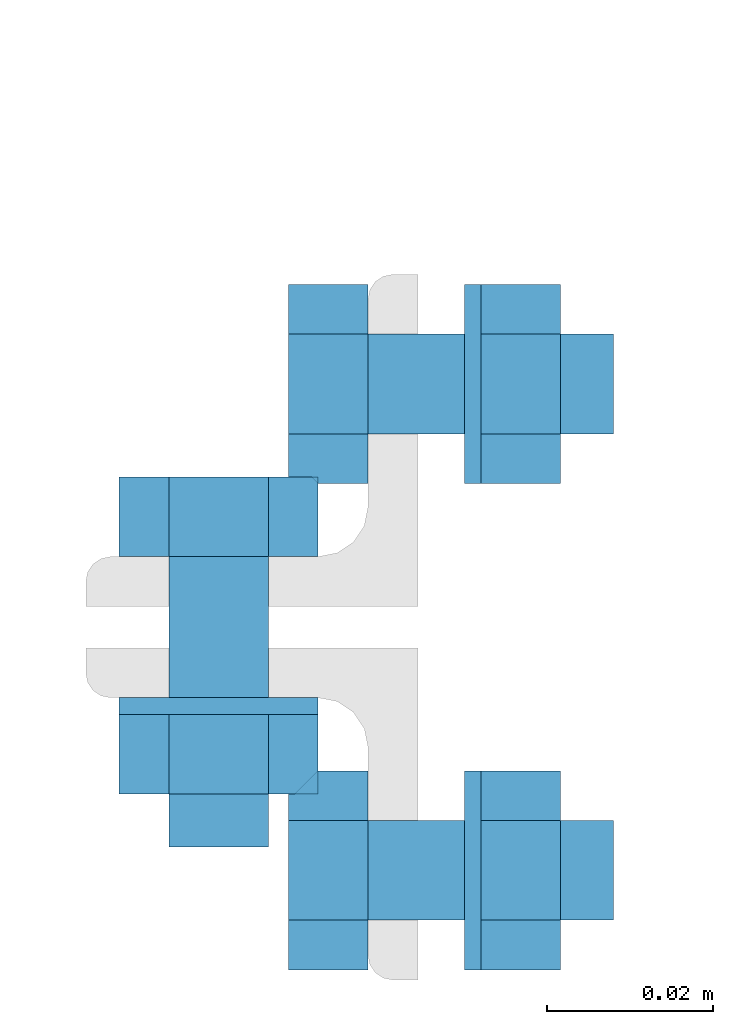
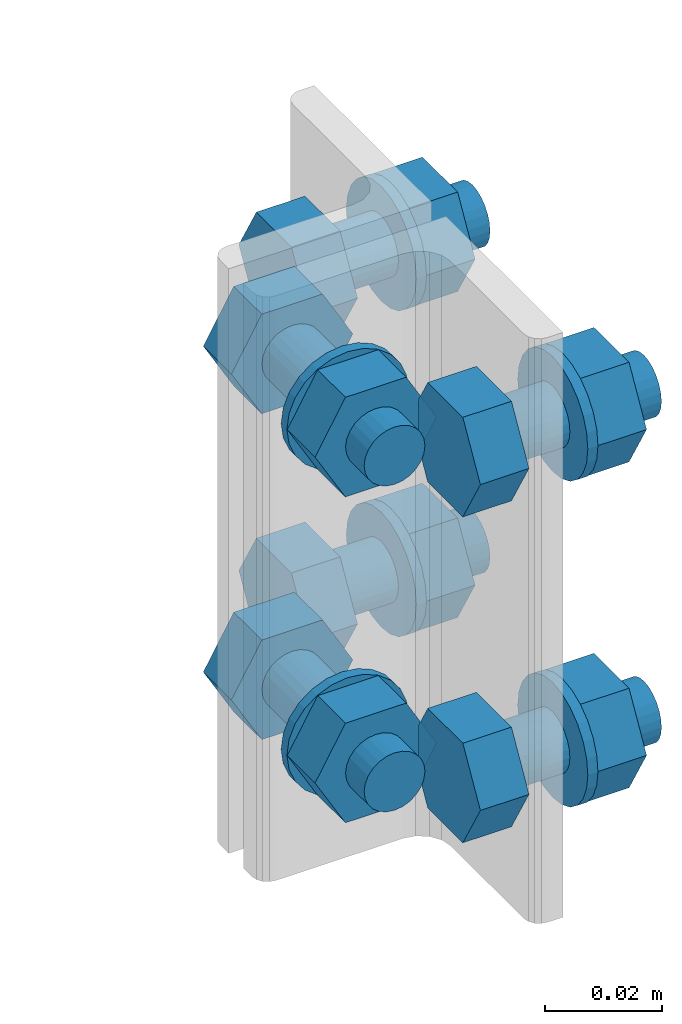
# One storey, part 18 of 20: 32 mechanical fasteners.
"""IFC4 building model written with IfcOpenShell, lengths in metres."""

from ifc_helpers import new_model, si_unit, frame, origin_with_axes, place, context, project, spatial, polyline, outline, extrude, type_object, element, save


model = new_model("IFC4")

# Units and contexts
model_context = context("Model", 3, precision=1e-05, world=origin_with_axes())
ifc_project = project(units=[si_unit("LENGTHUNIT", "METRE"), si_unit("AREAUNIT", "SQUARE_METRE"), si_unit("VOLUMEUNIT", "CUBIC_METRE"), si_unit("MASSUNIT", "GRAM", prefix="KILO"), si_unit("TIMEUNIT", "SECOND"), si_unit("PLANEANGLEUNIT", "RADIAN"), si_unit("SOLIDANGLEUNIT", "STERADIAN"), si_unit("THERMODYNAMICTEMPERATUREUNIT", "DEGREE_CELSIUS")], contexts=[model_context])

# Site, building, storey
placement_1 = place(None, origin_with_axes())
site = spatial("IfcSite", under=ifc_project, at=placement_1, Name="Italia", CompositionType="ELEMENT")
building = spatial("IfcBuilding", under=site, at=placement_1, Name="Tettoia", CompositionType="ELEMENT")
storey = spatial("IfcBuildingStorey", under=building, at=placement_1, Name="Storey 0", CompositionType="ELEMENT", Elevation=0.0)

# Mechanical fasteners
mechanical_fastener_type_1 = type_object("IfcMechanicalFastenerType", Name="Collegamento 0117_0116", PredefinedType="BOLT")
placement_2 = place(placement_1, origin_with_axes())
mechanical_fastener_1_placement = place(placement_2, origin_with_axes())
element("IfcMechanicalFastener", 1, at=mechanical_fastener_1_placement, inside=storey, type_object=mechanical_fastener_type_1, Name="Collegamento 0117_0116", NominalDiameter=0.0119997, context=model_context, shape_type="SweptSolid", body=[
    extrude(outline(polyline([(0.0, 0.0), (-0.0120001, 0.0), (-0.0179996, 0.0103922), (-0.0120001, 0.0207844), (0.0, 0.0207844), (0.00600052, 0.0103922), (0.0, 0.0)])), frame((11.2572, 0.2085, 4.25561), z_axis=(0.0, 1.0, 0.0), x_axis=(-1.0, 0.0, 0.0)), (0.0, 0.0, 1.0), 0.00960001),
])
mechanical_fastener_type_2 = type_object("IfcMechanicalFastenerType", Name="Collegamento 0117_0116", PredefinedType="BOLT")
mechanical_fastener_2_placement = place(placement_2, origin_with_axes())
element("IfcMechanicalFastener", 2, at=mechanical_fastener_2_placement, inside=storey, type_object=mechanical_fastener_type_2, Name="Collegamento 0117_0116", NominalDiameter=0.012, context=model_context, shape_type="SweptSolid", body=[
    extrude(outline(polyline([(0.0, 0.0), (-0.000204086, -0.00155306), (-0.000802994, -0.00299978), (-0.00175667, -0.00424242), (-0.00299931, -0.00519609), (-0.00444698, -0.00579548), (-0.00599957, -0.00600004), (-0.00755215, -0.00579548), (-0.00899982, -0.00519609), (-0.0102425, -0.00424242), (-0.0111961, -0.00299978), (-0.011795, -0.00155306), (-0.0119991, 0.0), (-0.011795, 0.00155306), (-0.0111961, 0.00299978), (-0.0102425, 0.00424242), (-0.00899982, 0.00519609), (-0.00755215, 0.00579548), (-0.00599957, 0.00600004), (-0.00444698, 0.00579548), (-0.00299931, 0.00519609), (-0.00175667, 0.00424242), (-0.000802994, 0.00299978), (-0.000204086, 0.00155306), (0.0, 0.0)])), frame((11.2572, 0.1735, 4.266), z_axis=(0.0, 1.0, 0.0), x_axis=(-1.0, 0.0, 0.0)), (0.0, 0.0, 1.0), 0.035),
])
mechanical_fastener_type_3 = type_object("IfcMechanicalFastenerType", Name="Collegamento 0117_0116", PredefinedType="BOLT")
mechanical_fastener_3_placement = place(placement_2, origin_with_axes())
element("IfcMechanicalFastener", 3, at=mechanical_fastener_3_placement, inside=storey, type_object=mechanical_fastener_type_3, Name="Collegamento 0117_0116", NominalDiameter=0.0119997, context=model_context, shape_type="SweptSolid", body=[
    extrude(outline(polyline([(0.0, 0.0), (-0.0120001, 0.0), (-0.0179996, 0.0103922), (-0.0120001, 0.0207844), (0.0, 0.0207844), (0.00600052, 0.0103922), (0.0, 0.0)])), frame((11.2572, 0.1799, 4.25561), z_axis=(0.0, 1.0, 0.0), x_axis=(-1.0, 0.0, 0.0)), (0.0, 0.0, 1.0), 0.0096),
])
mechanical_fastener_type_4 = type_object("IfcMechanicalFastenerType", Name="Collegamento 0117_0116", PredefinedType="BOLT")
mechanical_fastener_4_placement = place(placement_2, origin_with_axes())
element("IfcMechanicalFastener", 4, at=mechanical_fastener_4_placement, inside=storey, type_object=mechanical_fastener_type_4, Name="Collegamento 0117_0116", NominalDiameter=0.024, context=model_context, shape_type="SweptSolid", body=[
    extrude(outline(polyline([(0.0, 0.0), (-0.000409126, -0.00310564), (-0.00160789, -0.00600004), (-0.00351524, -0.00848532), (-0.00600052, -0.0103922), (-0.00889397, -0.011591), (-0.0120001, -0.0120001), (-0.0151062, -0.011591), (-0.0179996, -0.0103922), (-0.0204849, -0.00848532), (-0.0223923, -0.00600004), (-0.023591, -0.00310564), (-0.0240002, 0.0), (-0.023591, 0.00310564), (-0.0223923, 0.00600004), (-0.0204849, 0.00848532), (-0.0179996, 0.0103922), (-0.0151062, 0.011591), (-0.0120001, 0.0120001), (-0.00889397, 0.011591), (-0.00600052, 0.0103922), (-0.00351524, 0.00848532), (-0.00160789, 0.00600004), (-0.000409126, 0.00310564), (0.0, 0.0)])), frame((11.2512, 0.1895, 4.266), z_axis=(0.0, 1.0, 0.0), x_axis=(-1.0, 0.0, 0.0)), (0.0, 0.0, 1.0), 0.002),
])
mechanical_fastener_type_5 = type_object("IfcMechanicalFastenerType", Name="Collegamento 0117_0116", PredefinedType="BOLT")
mechanical_fastener_5_placement = place(placement_2, origin_with_axes())
element("IfcMechanicalFastener", 5, at=mechanical_fastener_5_placement, inside=storey, type_object=mechanical_fastener_type_5, Name="Collegamento 0117_0116", NominalDiameter=0.0119997, context=model_context, shape_type="SweptSolid", body=[
    extrude(outline(polyline([(0.0, 0.0), (-0.0120001, 0.0), (-0.0179996, 0.0103922), (-0.0120001, 0.0207844), (0.0, 0.0207844), (0.00600052, 0.0103922), (0.0, 0.0)])), frame((11.2572, 0.2085, 4.32361), z_axis=(0.0, 1.0, 0.0), x_axis=(-1.0, 0.0, 0.0)), (0.0, 0.0, 1.0), 0.00960001),
])
mechanical_fastener_type_6 = type_object("IfcMechanicalFastenerType", Name="Collegamento 0117_0116", PredefinedType="BOLT")
mechanical_fastener_6_placement = place(placement_2, origin_with_axes())
element("IfcMechanicalFastener", 6, at=mechanical_fastener_6_placement, inside=storey, type_object=mechanical_fastener_type_6, Name="Collegamento 0117_0116", NominalDiameter=0.012, context=model_context, shape_type="SweptSolid", body=[
    extrude(outline(polyline([(0.0, 0.0), (-0.000204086, -0.00155306), (-0.000802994, -0.00299978), (-0.00175667, -0.00424242), (-0.00299931, -0.00519609), (-0.00444698, -0.00579548), (-0.00599957, -0.00600004), (-0.00755215, -0.00579548), (-0.00899982, -0.00519609), (-0.0102425, -0.00424242), (-0.0111961, -0.00299978), (-0.011795, -0.00155306), (-0.0119991, 0.0), (-0.011795, 0.00155306), (-0.0111961, 0.00299978), (-0.0102425, 0.00424242), (-0.00899982, 0.00519609), (-0.00755215, 0.00579548), (-0.00599957, 0.00600004), (-0.00444698, 0.00579548), (-0.00299931, 0.00519609), (-0.00175667, 0.00424242), (-0.000802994, 0.00299978), (-0.000204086, 0.00155306), (0.0, 0.0)])), frame((11.2572, 0.1735, 4.334), z_axis=(0.0, 1.0, 0.0), x_axis=(-1.0, 0.0, 0.0)), (0.0, 0.0, 1.0), 0.035),
])
mechanical_fastener_type_7 = type_object("IfcMechanicalFastenerType", Name="Collegamento 0117_0116", PredefinedType="BOLT")
mechanical_fastener_7_placement = place(placement_2, origin_with_axes())
element("IfcMechanicalFastener", 7, at=mechanical_fastener_7_placement, inside=storey, type_object=mechanical_fastener_type_7, Name="Collegamento 0117_0116", NominalDiameter=0.0119997, context=model_context, shape_type="SweptSolid", body=[
    extrude(outline(polyline([(0.0, 0.0), (-0.0120001, 0.0), (-0.0179996, 0.0103922), (-0.0120001, 0.0207844), (0.0, 0.0207844), (0.00600052, 0.0103922), (0.0, 0.0)])), frame((11.2572, 0.1799, 4.32361), z_axis=(0.0, 1.0, 0.0), x_axis=(-1.0, 0.0, 0.0)), (0.0, 0.0, 1.0), 0.0096),
])
mechanical_fastener_type_8 = type_object("IfcMechanicalFastenerType", Name="Collegamento 0117_0116", PredefinedType="BOLT")
mechanical_fastener_8_placement = place(placement_2, origin_with_axes())
element("IfcMechanicalFastener", 8, at=mechanical_fastener_8_placement, inside=storey, type_object=mechanical_fastener_type_8, Name="Collegamento 0117_0116", NominalDiameter=0.024, context=model_context, shape_type="SweptSolid", body=[
    extrude(outline(polyline([(0.0, 0.0), (-0.000409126, -0.00310564), (-0.00160789, -0.00600004), (-0.00351524, -0.00848532), (-0.00600052, -0.0103922), (-0.00889397, -0.011591), (-0.0120001, -0.0120001), (-0.0151062, -0.011591), (-0.0179996, -0.0103922), (-0.0204849, -0.00848532), (-0.0223923, -0.00600004), (-0.023591, -0.00310564), (-0.0240002, 0.0), (-0.023591, 0.00310564), (-0.0223923, 0.00600004), (-0.0204849, 0.00848532), (-0.0179996, 0.0103922), (-0.0151062, 0.011591), (-0.0120001, 0.0120001), (-0.00889397, 0.011591), (-0.00600052, 0.0103922), (-0.00351524, 0.00848532), (-0.00160789, 0.00600004), (-0.000409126, 0.00310564), (0.0, 0.0)])), frame((11.2512, 0.1895, 4.334), z_axis=(0.0, 1.0, 0.0), x_axis=(-1.0, 0.0, 0.0)), (0.0, 0.0, 1.0), 0.002),
])
mechanical_fastener_type_9 = type_object("IfcMechanicalFastenerType", Name="Collegamento 0117_0116", PredefinedType="BOLT")
mechanical_fastener_9_placement = place(placement_2, origin_with_axes())
element("IfcMechanicalFastener", 9, at=mechanical_fastener_9_placement, inside=storey, type_object=mechanical_fastener_type_9, Name="Collegamento 0117_0116", NominalDiameter=0.0119997, context=model_context, shape_type="SweptSolid", body=[
    extrude(outline(polyline([(0.0, 0.0), (-0.0120001, 0.0), (-0.0179996, 0.0103922), (-0.0120001, 0.0207844), (0.0, 0.0207844), (0.00600052, 0.0103922), (0.0, 0.0)])), frame((11.2572, 0.2085, 4.25561), z_axis=(0.0, 1.0, 0.0), x_axis=(-1.0, 0.0, 0.0)), (0.0, 0.0, 1.0), 0.00960001),
])
mechanical_fastener_type_10 = type_object("IfcMechanicalFastenerType", Name="Collegamento 0117_0116", PredefinedType="BOLT")
mechanical_fastener_10_placement = place(placement_2, origin_with_axes())
element("IfcMechanicalFastener", 10, at=mechanical_fastener_10_placement, inside=storey, type_object=mechanical_fastener_type_10, Name="Collegamento 0117_0116", NominalDiameter=0.012, context=model_context, shape_type="SweptSolid", body=[
    extrude(outline(polyline([(0.0, 0.0), (-0.000204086, -0.00155306), (-0.000802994, -0.00299978), (-0.00175667, -0.00424242), (-0.00299931, -0.00519609), (-0.00444698, -0.00579548), (-0.00599957, -0.00600004), (-0.00755215, -0.00579548), (-0.00899982, -0.00519609), (-0.0102425, -0.00424242), (-0.0111961, -0.00299978), (-0.011795, -0.00155306), (-0.0119991, 0.0), (-0.011795, 0.00155306), (-0.0111961, 0.00299978), (-0.0102425, 0.00424242), (-0.00899982, 0.00519609), (-0.00755215, 0.00579548), (-0.00599957, 0.00600004), (-0.00444698, 0.00579548), (-0.00299931, 0.00519609), (-0.00175667, 0.00424242), (-0.000802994, 0.00299978), (-0.000204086, 0.00155306), (0.0, 0.0)])), frame((11.2572, 0.1735, 4.266), z_axis=(0.0, 1.0, 0.0), x_axis=(-1.0, 0.0, 0.0)), (0.0, 0.0, 1.0), 0.035),
])
mechanical_fastener_type_11 = type_object("IfcMechanicalFastenerType", Name="Collegamento 0117_0116", PredefinedType="BOLT")
mechanical_fastener_11_placement = place(placement_2, origin_with_axes())
element("IfcMechanicalFastener", 11, at=mechanical_fastener_11_placement, inside=storey, type_object=mechanical_fastener_type_11, Name="Collegamento 0117_0116", NominalDiameter=0.0119997, context=model_context, shape_type="SweptSolid", body=[
    extrude(outline(polyline([(0.0, 0.0), (-0.0120001, 0.0), (-0.0179996, 0.0103922), (-0.0120001, 0.0207844), (0.0, 0.0207844), (0.00600052, 0.0103922), (0.0, 0.0)])), frame((11.2572, 0.1799, 4.25561), z_axis=(0.0, 1.0, 0.0), x_axis=(-1.0, 0.0, 0.0)), (0.0, 0.0, 1.0), 0.0096),
])
mechanical_fastener_type_12 = type_object("IfcMechanicalFastenerType", Name="Collegamento 0117_0116", PredefinedType="BOLT")
mechanical_fastener_12_placement = place(placement_2, origin_with_axes())
element("IfcMechanicalFastener", 12, at=mechanical_fastener_12_placement, inside=storey, type_object=mechanical_fastener_type_12, Name="Collegamento 0117_0116", NominalDiameter=0.024, context=model_context, shape_type="SweptSolid", body=[
    extrude(outline(polyline([(0.0, 0.0), (-0.000409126, -0.00310564), (-0.00160789, -0.00600004), (-0.00351524, -0.00848532), (-0.00600052, -0.0103922), (-0.00889397, -0.011591), (-0.0120001, -0.0120001), (-0.0151062, -0.011591), (-0.0179996, -0.0103922), (-0.0204849, -0.00848532), (-0.0223923, -0.00600004), (-0.023591, -0.00310564), (-0.0240002, 0.0), (-0.023591, 0.00310564), (-0.0223923, 0.00600004), (-0.0204849, 0.00848532), (-0.0179996, 0.0103922), (-0.0151062, 0.011591), (-0.0120001, 0.0120001), (-0.00889397, 0.011591), (-0.00600052, 0.0103922), (-0.00351524, 0.00848532), (-0.00160789, 0.00600004), (-0.000409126, 0.00310564), (0.0, 0.0)])), frame((11.2512, 0.1895, 4.266), z_axis=(0.0, 1.0, 0.0), x_axis=(-1.0, 0.0, 0.0)), (0.0, 0.0, 1.0), 0.002),
])
mechanical_fastener_type_13 = type_object("IfcMechanicalFastenerType", Name="Collegamento 0117_0116", PredefinedType="BOLT")
mechanical_fastener_13_placement = place(placement_2, origin_with_axes())
element("IfcMechanicalFastener", 13, at=mechanical_fastener_13_placement, inside=storey, type_object=mechanical_fastener_type_13, Name="Collegamento 0117_0116", NominalDiameter=0.0119997, context=model_context, shape_type="SweptSolid", body=[
    extrude(outline(polyline([(0.0, 0.0), (-0.0120001, 0.0), (-0.0179996, 0.0103922), (-0.0120001, 0.0207844), (0.0, 0.0207844), (0.00600052, 0.0103922), (0.0, 0.0)])), frame((11.2572, 0.2085, 4.32361), z_axis=(0.0, 1.0, 0.0), x_axis=(-1.0, 0.0, 0.0)), (0.0, 0.0, 1.0), 0.00960001),
])
mechanical_fastener_type_14 = type_object("IfcMechanicalFastenerType", Name="Collegamento 0117_0116", PredefinedType="BOLT")
mechanical_fastener_14_placement = place(placement_2, origin_with_axes())
element("IfcMechanicalFastener", 14, at=mechanical_fastener_14_placement, inside=storey, type_object=mechanical_fastener_type_14, Name="Collegamento 0117_0116", NominalDiameter=0.012, context=model_context, shape_type="SweptSolid", body=[
    extrude(outline(polyline([(0.0, 0.0), (-0.000204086, -0.00155306), (-0.000802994, -0.00299978), (-0.00175667, -0.00424242), (-0.00299931, -0.00519609), (-0.00444698, -0.00579548), (-0.00599957, -0.00600004), (-0.00755215, -0.00579548), (-0.00899982, -0.00519609), (-0.0102425, -0.00424242), (-0.0111961, -0.00299978), (-0.011795, -0.00155306), (-0.0119991, 0.0), (-0.011795, 0.00155306), (-0.0111961, 0.00299978), (-0.0102425, 0.00424242), (-0.00899982, 0.00519609), (-0.00755215, 0.00579548), (-0.00599957, 0.00600004), (-0.00444698, 0.00579548), (-0.00299931, 0.00519609), (-0.00175667, 0.00424242), (-0.000802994, 0.00299978), (-0.000204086, 0.00155306), (0.0, 0.0)])), frame((11.2572, 0.1735, 4.334), z_axis=(0.0, 1.0, 0.0), x_axis=(-1.0, 0.0, 0.0)), (0.0, 0.0, 1.0), 0.035),
])
mechanical_fastener_type_15 = type_object("IfcMechanicalFastenerType", Name="Collegamento 0117_0116", PredefinedType="BOLT")
mechanical_fastener_15_placement = place(placement_2, origin_with_axes())
element("IfcMechanicalFastener", 15, at=mechanical_fastener_15_placement, inside=storey, type_object=mechanical_fastener_type_15, Name="Collegamento 0117_0116", NominalDiameter=0.0119997, context=model_context, shape_type="SweptSolid", body=[
    extrude(outline(polyline([(0.0, 0.0), (-0.0120001, 0.0), (-0.0179996, 0.0103922), (-0.0120001, 0.0207844), (0.0, 0.0207844), (0.00600052, 0.0103922), (0.0, 0.0)])), frame((11.2572, 0.1799, 4.32361), z_axis=(0.0, 1.0, 0.0), x_axis=(-1.0, 0.0, 0.0)), (0.0, 0.0, 1.0), 0.0096),
])
mechanical_fastener_type_16 = type_object("IfcMechanicalFastenerType", Name="Collegamento 0117_0116", PredefinedType="BOLT")
mechanical_fastener_16_placement = place(placement_2, origin_with_axes())
element("IfcMechanicalFastener", 16, at=mechanical_fastener_16_placement, inside=storey, type_object=mechanical_fastener_type_16, Name="Collegamento 0117_0116", NominalDiameter=0.024, context=model_context, shape_type="SweptSolid", body=[
    extrude(outline(polyline([(0.0, 0.0), (-0.000409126, -0.00310564), (-0.00160789, -0.00600004), (-0.00351524, -0.00848532), (-0.00600052, -0.0103922), (-0.00889397, -0.011591), (-0.0120001, -0.0120001), (-0.0151062, -0.011591), (-0.0179996, -0.0103922), (-0.0204849, -0.00848532), (-0.0223923, -0.00600004), (-0.023591, -0.00310564), (-0.0240002, 0.0), (-0.023591, 0.00310564), (-0.0223923, 0.00600004), (-0.0204849, 0.00848532), (-0.0179996, 0.0103922), (-0.0151062, 0.011591), (-0.0120001, 0.0120001), (-0.00889397, 0.011591), (-0.00600052, 0.0103922), (-0.00351524, 0.00848532), (-0.00160789, 0.00600004), (-0.000409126, 0.00310564), (0.0, 0.0)])), frame((11.2512, 0.1895, 4.334), z_axis=(0.0, 1.0, 0.0), x_axis=(-1.0, 0.0, 0.0)), (0.0, 0.0, 1.0), 0.002),
])
mechanical_fastener_type_17 = type_object("IfcMechanicalFastenerType", Name="Collegamento 0117_0116", PredefinedType="BOLT")
mechanical_fastener_17_placement = place(placement_2, origin_with_axes())
element("IfcMechanicalFastener", 17, at=mechanical_fastener_17_placement, inside=storey, type_object=mechanical_fastener_type_17, Name="Collegamento 0117_0116", NominalDiameter=0.0119999, context=model_context, shape_type="SweptSolid", body=[
    extrude(outline(polyline([(0.0, 0.0), (-0.012, 0.0), (-0.018, 0.0103922), (-0.012, 0.0207844), (0.0, 0.0207844), (0.006, 0.0103922), (0.0, 0.0)])), frame((11.2812, 0.1647, 4.25561), z_axis=(-1.0, 0.0, 0.0), x_axis=(0.0, -1.0, 0.0)), (0.0, 0.0, 1.0), 0.00960064),
])
mechanical_fastener_type_18 = type_object("IfcMechanicalFastenerType", Name="Collegamento 0117_0116", PredefinedType="BOLT")
mechanical_fastener_18_placement = place(placement_2, origin_with_axes())
element("IfcMechanicalFastener", 18, at=mechanical_fastener_18_placement, inside=storey, type_object=mechanical_fastener_type_18, Name="Collegamento 0117_0116", NominalDiameter=0.012, context=model_context, shape_type="SweptSolid", body=[
    extrude(outline(polyline([(0.0, 0.0), (-0.000204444, -0.00155306), (-0.000803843, -0.00299978), (-0.00175735, -0.00424242), (-0.00299999, -0.00519609), (-0.00444709, -0.00579548), (-0.006, -0.00600004), (-0.00755291, -0.00579548), (-0.009, -0.00519609), (-0.0102426, -0.00424242), (-0.0111962, -0.00299978), (-0.0117956, -0.00155306), (-0.012, 0.0), (-0.0117956, 0.00155306), (-0.0111962, 0.00299978), (-0.0102426, 0.00424242), (-0.009, 0.00519609), (-0.00755291, 0.00579548), (-0.006, 0.00600004), (-0.00444709, 0.00579548), (-0.00299999, 0.00519609), (-0.00175735, 0.00424242), (-0.000803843, 0.00299978), (-0.000204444, 0.00155306), (0.0, 0.0)])), frame((11.3108, 0.1647, 4.266), z_axis=(-1.0, 0.0, 0.0), x_axis=(0.0, -1.0, 0.0)), (0.0, 0.0, 1.0), 0.0295992),
])
mechanical_fastener_type_19 = type_object("IfcMechanicalFastenerType", Name="Collegamento 0117_0116", PredefinedType="BOLT")
mechanical_fastener_19_placement = place(placement_2, origin_with_axes())
element("IfcMechanicalFastener", 19, at=mechanical_fastener_19_placement, inside=storey, type_object=mechanical_fastener_type_19, Name="Collegamento 0117_0116", NominalDiameter=0.0119999, context=model_context, shape_type="SweptSolid", body=[
    extrude(outline(polyline([(0.0, 0.0), (-0.012, 0.0), (-0.018, 0.0103922), (-0.012, 0.0207844), (0.0, 0.0207844), (0.006, 0.0103922), (0.0, 0.0)])), frame((11.3044, 0.1647, 4.25561), z_axis=(-1.0, 0.0, 0.0), x_axis=(0.0, -1.0, 0.0)), (0.0, 0.0, 1.0), 0.00960064),
])
mechanical_fastener_type_20 = type_object("IfcMechanicalFastenerType", Name="Collegamento 0117_0116", PredefinedType="BOLT")
mechanical_fastener_20_placement = place(placement_2, origin_with_axes())
element("IfcMechanicalFastener", 20, at=mechanical_fastener_20_placement, inside=storey, type_object=mechanical_fastener_type_20, Name="Collegamento 0117_0116", NominalDiameter=0.024, context=model_context, shape_type="SweptSolid", body=[
    extrude(outline(polyline([(0.0, 0.0), (-0.000408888, -0.00310564), (-0.00160769, -0.00600004), (-0.00351471, -0.00848532), (-0.006, -0.0103922), (-0.00889416, -0.011591), (-0.012, -0.0120001), (-0.0151058, -0.011591), (-0.018, -0.0103922), (-0.0204853, -0.00848532), (-0.0223923, -0.00600004), (-0.0235911, -0.00310564), (-0.024, 0.0), (-0.0235911, 0.00310564), (-0.0223923, 0.00600004), (-0.0204853, 0.00848532), (-0.018, 0.0103922), (-0.0151058, 0.011591), (-0.012, 0.0120001), (-0.00889416, 0.011591), (-0.006, 0.0103922), (-0.00351471, 0.00848532), (-0.00160769, 0.00600004), (-0.000408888, 0.00310564), (0.0, 0.0)])), frame((11.2948, 0.1587, 4.266), z_axis=(-1.0, 0.0, 0.0), x_axis=(0.0, -1.0, 0.0)), (0.0, 0.0, 1.0), 0.00199986),
])
mechanical_fastener_type_21 = type_object("IfcMechanicalFastenerType", Name="Collegamento 0117_0116", PredefinedType="BOLT")
mechanical_fastener_21_placement = place(placement_2, origin_with_axes())
element("IfcMechanicalFastener", 21, at=mechanical_fastener_21_placement, inside=storey, type_object=mechanical_fastener_type_21, Name="Collegamento 0117_0116", NominalDiameter=0.0119999, context=model_context, shape_type="SweptSolid", body=[
    extrude(outline(polyline([(0.0, 0.0), (-0.012, 0.0), (-0.018, 0.0103922), (-0.012, 0.0207844), (0.0, 0.0207844), (0.006, 0.0103922), (0.0, 0.0)])), frame((11.2812, 0.1647, 4.32361), z_axis=(-1.0, 0.0, 0.0), x_axis=(0.0, -1.0, 0.0)), (0.0, 0.0, 1.0), 0.00960064),
])
mechanical_fastener_type_22 = type_object("IfcMechanicalFastenerType", Name="Collegamento 0117_0116", PredefinedType="BOLT")
mechanical_fastener_22_placement = place(placement_2, origin_with_axes())
element("IfcMechanicalFastener", 22, at=mechanical_fastener_22_placement, inside=storey, type_object=mechanical_fastener_type_22, Name="Collegamento 0117_0116", NominalDiameter=0.012, context=model_context, shape_type="SweptSolid", body=[
    extrude(outline(polyline([(0.0, 0.0), (-0.000204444, -0.00155306), (-0.000803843, -0.00299978), (-0.00175735, -0.00424242), (-0.00299999, -0.00519609), (-0.00444709, -0.00579548), (-0.006, -0.00600004), (-0.00755291, -0.00579548), (-0.009, -0.00519609), (-0.0102426, -0.00424242), (-0.0111962, -0.00299978), (-0.0117956, -0.00155306), (-0.012, 0.0), (-0.0117956, 0.00155306), (-0.0111962, 0.00299978), (-0.0102426, 0.00424242), (-0.009, 0.00519609), (-0.00755291, 0.00579548), (-0.006, 0.00600004), (-0.00444709, 0.00579548), (-0.00299999, 0.00519609), (-0.00175735, 0.00424242), (-0.000803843, 0.00299978), (-0.000204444, 0.00155306), (0.0, 0.0)])), frame((11.3108, 0.1647, 4.334), z_axis=(-1.0, 0.0, 0.0), x_axis=(0.0, -1.0, 0.0)), (0.0, 0.0, 1.0), 0.0295992),
])
mechanical_fastener_type_23 = type_object("IfcMechanicalFastenerType", Name="Collegamento 0117_0116", PredefinedType="BOLT")
mechanical_fastener_23_placement = place(placement_2, origin_with_axes())
element("IfcMechanicalFastener", 23, at=mechanical_fastener_23_placement, inside=storey, type_object=mechanical_fastener_type_23, Name="Collegamento 0117_0116", NominalDiameter=0.0119999, context=model_context, shape_type="SweptSolid", body=[
    extrude(outline(polyline([(0.0, 0.0), (-0.012, 0.0), (-0.018, 0.0103922), (-0.012, 0.0207844), (0.0, 0.0207844), (0.006, 0.0103922), (0.0, 0.0)])), frame((11.3044, 0.1647, 4.32361), z_axis=(-1.0, 0.0, 0.0), x_axis=(0.0, -1.0, 0.0)), (0.0, 0.0, 1.0), 0.00960064),
])
mechanical_fastener_type_24 = type_object("IfcMechanicalFastenerType", Name="Collegamento 0117_0116", PredefinedType="BOLT")
mechanical_fastener_24_placement = place(placement_2, origin_with_axes())
element("IfcMechanicalFastener", 24, at=mechanical_fastener_24_placement, inside=storey, type_object=mechanical_fastener_type_24, Name="Collegamento 0117_0116", NominalDiameter=0.024, context=model_context, shape_type="SweptSolid", body=[
    extrude(outline(polyline([(0.0, 0.0), (-0.000408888, -0.00310564), (-0.00160769, -0.00600004), (-0.00351471, -0.00848532), (-0.006, -0.0103922), (-0.00889416, -0.011591), (-0.012, -0.0120001), (-0.0151058, -0.011591), (-0.018, -0.0103922), (-0.0204853, -0.00848532), (-0.0223923, -0.00600004), (-0.0235911, -0.00310564), (-0.024, 0.0), (-0.0235911, 0.00310564), (-0.0223923, 0.00600004), (-0.0204853, 0.00848532), (-0.018, 0.0103922), (-0.0151058, 0.011591), (-0.012, 0.0120001), (-0.00889416, 0.011591), (-0.006, 0.0103922), (-0.00351471, 0.00848532), (-0.00160769, 0.00600004), (-0.000408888, 0.00310564), (0.0, 0.0)])), frame((11.2948, 0.1587, 4.334), z_axis=(-1.0, 0.0, 0.0), x_axis=(0.0, -1.0, 0.0)), (0.0, 0.0, 1.0), 0.00199986),
])
mechanical_fastener_type_25 = type_object("IfcMechanicalFastenerType", Name="Collegamento 0117_0116", PredefinedType="BOLT")
mechanical_fastener_25_placement = place(placement_2, origin_with_axes())
element("IfcMechanicalFastener", 25, at=mechanical_fastener_25_placement, inside=storey, type_object=mechanical_fastener_type_25, Name="Collegamento 0117_0116", NominalDiameter=0.0119999, context=model_context, shape_type="SweptSolid", body=[
    extrude(outline(polyline([(0.0, 0.0), (-0.012, 0.0), (-0.018, 0.0103922), (-0.012, 0.0207844), (0.0, 0.0207844), (0.006, 0.0103922), (0.0, 0.0)])), frame((11.2716, 0.2353, 4.25561), z_axis=(1.0, 0.0, 0.0), x_axis=(0.0, 1.0, 0.0)), (0.0, 0.0, 1.0), 0.00960064),
])
mechanical_fastener_type_26 = type_object("IfcMechanicalFastenerType", Name="Collegamento 0117_0116", PredefinedType="BOLT")
mechanical_fastener_26_placement = place(placement_2, origin_with_axes())
element("IfcMechanicalFastener", 26, at=mechanical_fastener_26_placement, inside=storey, type_object=mechanical_fastener_type_26, Name="Collegamento 0117_0116", NominalDiameter=0.012, context=model_context, shape_type="SweptSolid", body=[
    extrude(outline(polyline([(0.0, 0.0), (-0.000204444, -0.00155306), (-0.000803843, -0.00299978), (-0.00175735, -0.00424242), (-0.00299999, -0.00519609), (-0.00444709, -0.00579548), (-0.006, -0.00600004), (-0.00755291, -0.00579548), (-0.009, -0.00519609), (-0.0102426, -0.00424242), (-0.0111962, -0.00299978), (-0.0117956, -0.00155306), (-0.012, 0.0), (-0.0117956, 0.00155306), (-0.0111962, 0.00299978), (-0.0102426, 0.00424242), (-0.009, 0.00519609), (-0.00755291, 0.00579548), (-0.006, 0.00600004), (-0.00444709, 0.00579548), (-0.00299999, 0.00519609), (-0.00175735, 0.00424242), (-0.000803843, 0.00299978), (-0.000204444, 0.00155306), (0.0, 0.0)])), frame((11.2812, 0.2353, 4.266), z_axis=(1.0, 0.0, 0.0), x_axis=(0.0, 1.0, 0.0)), (0.0, 0.0, 1.0), 0.0295992),
])
mechanical_fastener_type_27 = type_object("IfcMechanicalFastenerType", Name="Collegamento 0117_0116", PredefinedType="BOLT")
mechanical_fastener_27_placement = place(placement_2, origin_with_axes())
element("IfcMechanicalFastener", 27, at=mechanical_fastener_27_placement, inside=storey, type_object=mechanical_fastener_type_27, Name="Collegamento 0117_0116", NominalDiameter=0.0119999, context=model_context, shape_type="SweptSolid", body=[
    extrude(outline(polyline([(0.0, 0.0), (-0.012, 0.0), (-0.018, 0.0103922), (-0.012, 0.0207844), (0.0, 0.0207844), (0.006, 0.0103922), (0.0, 0.0)])), frame((11.2948, 0.2353, 4.25561), z_axis=(1.0, 0.0, 0.0), x_axis=(0.0, 1.0, 0.0)), (0.0, 0.0, 1.0), 0.00960064),
])
mechanical_fastener_type_28 = type_object("IfcMechanicalFastenerType", Name="Collegamento 0117_0116", PredefinedType="BOLT")
mechanical_fastener_28_placement = place(placement_2, origin_with_axes())
element("IfcMechanicalFastener", 28, at=mechanical_fastener_28_placement, inside=storey, type_object=mechanical_fastener_type_28, Name="Collegamento 0117_0116", NominalDiameter=0.024, context=model_context, shape_type="SweptSolid", body=[
    extrude(outline(polyline([(0.0, 0.0), (-0.000408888, -0.00310564), (-0.00160769, -0.00600004), (-0.00351471, -0.00848532), (-0.006, -0.0103922), (-0.00889416, -0.011591), (-0.012, -0.0120001), (-0.0151058, -0.011591), (-0.018, -0.0103922), (-0.0204853, -0.00848532), (-0.0223923, -0.00600004), (-0.0235911, -0.00310564), (-0.024, 0.0), (-0.0235911, 0.00310564), (-0.0223923, 0.00600004), (-0.0204853, 0.00848532), (-0.018, 0.0103922), (-0.0151058, 0.011591), (-0.012, 0.0120001), (-0.00889416, 0.011591), (-0.006, 0.0103922), (-0.00351471, 0.00848532), (-0.00160769, 0.00600004), (-0.000408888, 0.00310564), (0.0, 0.0)])), frame((11.2928, 0.2413, 4.266), z_axis=(1.0, 0.0, 0.0), x_axis=(0.0, 1.0, 0.0)), (0.0, 0.0, 1.0), 0.00199986),
])
mechanical_fastener_type_29 = type_object("IfcMechanicalFastenerType", Name="Collegamento 0117_0116", PredefinedType="BOLT")
mechanical_fastener_29_placement = place(placement_2, origin_with_axes())
element("IfcMechanicalFastener", 29, at=mechanical_fastener_29_placement, inside=storey, type_object=mechanical_fastener_type_29, Name="Collegamento 0117_0116", NominalDiameter=0.0119999, context=model_context, shape_type="SweptSolid", body=[
    extrude(outline(polyline([(0.0, 0.0), (-0.012, 0.0), (-0.018, 0.0103922), (-0.012, 0.0207844), (0.0, 0.0207844), (0.006, 0.0103922), (0.0, 0.0)])), frame((11.2716, 0.2353, 4.32361), z_axis=(1.0, 0.0, 0.0), x_axis=(0.0, 1.0, 0.0)), (0.0, 0.0, 1.0), 0.00960064),
])
mechanical_fastener_type_30 = type_object("IfcMechanicalFastenerType", Name="Collegamento 0117_0116", PredefinedType="BOLT")
mechanical_fastener_30_placement = place(placement_2, origin_with_axes())
element("IfcMechanicalFastener", 30, at=mechanical_fastener_30_placement, inside=storey, type_object=mechanical_fastener_type_30, Name="Collegamento 0117_0116", NominalDiameter=0.012, context=model_context, shape_type="SweptSolid", body=[
    extrude(outline(polyline([(0.0, 0.0), (-0.000204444, -0.00155306), (-0.000803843, -0.00299978), (-0.00175735, -0.00424242), (-0.00299999, -0.00519609), (-0.00444709, -0.00579548), (-0.006, -0.00600004), (-0.00755291, -0.00579548), (-0.009, -0.00519609), (-0.0102426, -0.00424242), (-0.0111962, -0.00299978), (-0.0117956, -0.00155306), (-0.012, 0.0), (-0.0117956, 0.00155306), (-0.0111962, 0.00299978), (-0.0102426, 0.00424242), (-0.009, 0.00519609), (-0.00755291, 0.00579548), (-0.006, 0.00600004), (-0.00444709, 0.00579548), (-0.00299999, 0.00519609), (-0.00175735, 0.00424242), (-0.000803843, 0.00299978), (-0.000204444, 0.00155306), (0.0, 0.0)])), frame((11.2812, 0.2353, 4.334), z_axis=(1.0, 0.0, 0.0), x_axis=(0.0, 1.0, 0.0)), (0.0, 0.0, 1.0), 0.0295992),
])
mechanical_fastener_type_31 = type_object("IfcMechanicalFastenerType", Name="Collegamento 0117_0116", PredefinedType="BOLT")
mechanical_fastener_31_placement = place(placement_2, origin_with_axes())
element("IfcMechanicalFastener", 31, at=mechanical_fastener_31_placement, inside=storey, type_object=mechanical_fastener_type_31, Name="Collegamento 0117_0116", NominalDiameter=0.0119999, context=model_context, shape_type="SweptSolid", body=[
    extrude(outline(polyline([(0.0, 0.0), (-0.012, 0.0), (-0.018, 0.0103922), (-0.012, 0.0207844), (0.0, 0.0207844), (0.006, 0.0103922), (0.0, 0.0)])), frame((11.2948, 0.2353, 4.32361), z_axis=(1.0, 0.0, 0.0), x_axis=(0.0, 1.0, 0.0)), (0.0, 0.0, 1.0), 0.00960064),
])
mechanical_fastener_type_32 = type_object("IfcMechanicalFastenerType", Name="Collegamento 0117_0116", PredefinedType="BOLT")
mechanical_fastener_32_placement = place(placement_2, origin_with_axes())
element("IfcMechanicalFastener", 32, at=mechanical_fastener_32_placement, inside=storey, type_object=mechanical_fastener_type_32, Name="Collegamento 0117_0116", NominalDiameter=0.024, context=model_context, shape_type="SweptSolid", body=[
    extrude(outline(polyline([(0.0, 0.0), (-0.000408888, -0.00310564), (-0.00160769, -0.00600004), (-0.00351471, -0.00848532), (-0.006, -0.0103922), (-0.00889416, -0.011591), (-0.012, -0.0120001), (-0.0151058, -0.011591), (-0.018, -0.0103922), (-0.0204853, -0.00848532), (-0.0223923, -0.00600004), (-0.0235911, -0.00310564), (-0.024, 0.0), (-0.0235911, 0.00310564), (-0.0223923, 0.00600004), (-0.0204853, 0.00848532), (-0.018, 0.0103922), (-0.0151058, 0.011591), (-0.012, 0.0120001), (-0.00889416, 0.011591), (-0.006, 0.0103922), (-0.00351471, 0.00848532), (-0.00160769, 0.00600004), (-0.000408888, 0.00310564), (0.0, 0.0)])), frame((11.2928, 0.2413, 4.334), z_axis=(1.0, 0.0, 0.0), x_axis=(0.0, 1.0, 0.0)), (0.0, 0.0, 1.0), 0.00199986),
])

save(model, "model.ifc")
